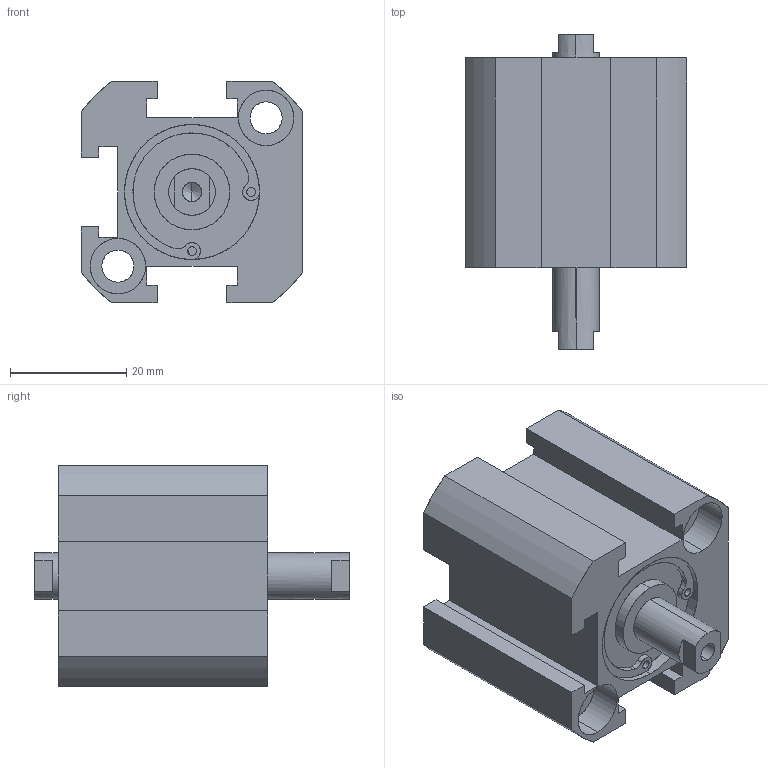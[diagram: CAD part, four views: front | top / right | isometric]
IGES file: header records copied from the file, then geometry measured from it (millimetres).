
Start section: SolidWorks IGES file using analytic representation for surfaces
Global section: file name: C:\Users\Toshiba\Desktop\XG#7-20-10.IGS; native system: SolidWorks 2014; preprocessor: SolidWorks 2014; author: Toshiba; date: 160524.095709; units: millimetre
Bounding box: 38 x 54 x 38 mm (x, y, z)
Surface area: 12274.1 mm2 (no closed solid volume)
Topology: 0 solids, 0 shells, 120 faces, 1800 edges, 1792 vertices
Faces by surface type: revolution 66, bspline 54
